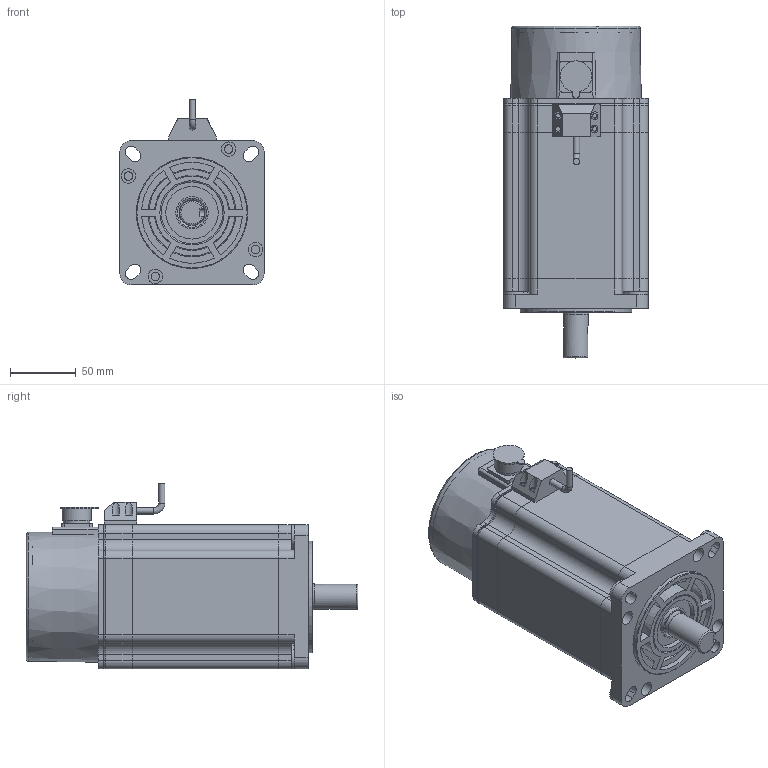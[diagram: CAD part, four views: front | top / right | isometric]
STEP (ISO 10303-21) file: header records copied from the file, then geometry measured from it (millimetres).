
FILE_DESCRIPTION(/* description */ (''),/* implementation_level */ '2;1');
FILE_NAME(/* name */ '110BYG350C(止口φ85).stp',/* time_stamp */ '2024-08-16T09:52:01+08:00',/* author */ (''),/* organization */ (''),/* preprocessor_version */ 'ST-DEVELOPER v18.1',/* originating_system */ 'SIEMENS PLM Software NX 2000',/* authorisation */ '');
FILE_SCHEMA (('AUTOMOTIVE_DESIGN { 1 0 10303 214 3 1 1 1 }'));
Length unit declared in the file: millimetre
Products named in the file (1): 925032A4A3696tkd
Bounding box: 110 x 253 x 141.72 mm (x, y, z)
Volume: 1721199.6 mm3; surface area: 225498.6 mm2
Topology: 10 solids, 10 shells, 548 faces, 1493 edges, 984 vertices
Faces by surface type: plane 358, cylinder 147, cone 26, torus 17
Full cylindrical faces by diameter (mm): 3 x4, 3.5 x4, 4.8 x2, 6 x4, 6.5 x12, 7 x1, 11 x4, 16.5 x1, 19 x1, 19.7 x1, 20 x1, 20.196 x2, 22.032 x1, 22.288 x1, 24.616 x1, 40 x1, 47 x2, 85 x1
Entity records: 17433 total; most frequent: CARTESIAN_POINT 3366, DIRECTION 2816, ORIENTED_EDGE 2806, EDGE_CURVE 1403, LINE 1020, VECTOR 1020, VERTEX_POINT 953, AXIS2_PLACEMENT_3D 898
